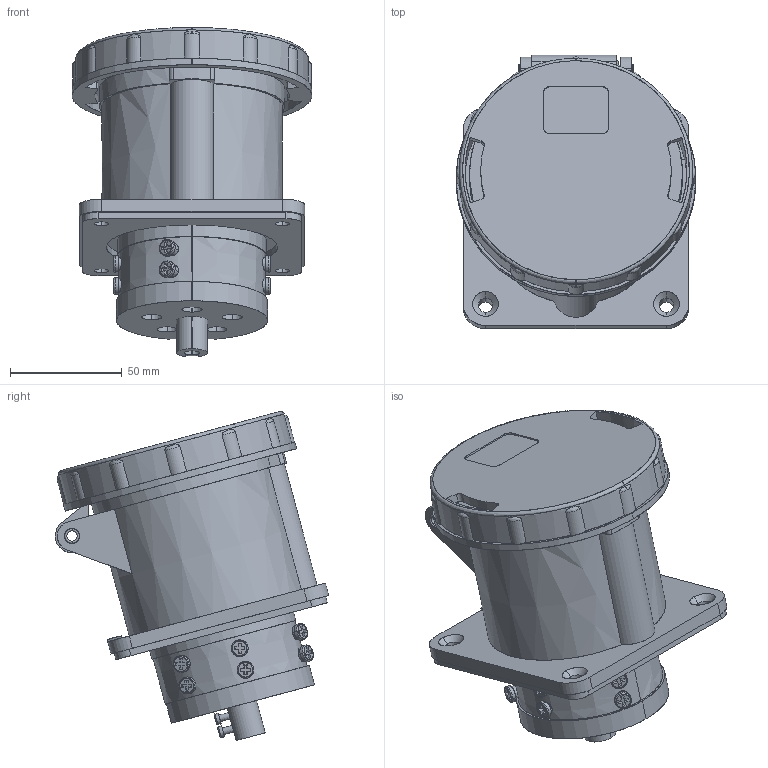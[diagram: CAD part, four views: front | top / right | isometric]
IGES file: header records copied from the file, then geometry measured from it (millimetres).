
Start section: SolidWorks IGES file using analytic representation for surfaces
Global section: file name: D:\X - Arquivos\PROEX\Empresas\P11 - METALTEX\01 - Produtos\IGES\5ª remessa\5ª etapa\TLR63653.IGS; native system: SolidWorks 2012; preprocessor: SolidWorks 2012; author: Usuario; date: 181024.170500; units: millimetre
Bounding box: 107.4 x 122.48 x 147.41 mm (x, y, z)
Surface area: 97643.4 mm2 (no closed solid volume)
Topology: 0 solids, 0 shells, 642 faces, 9270 edges, 9270 vertices
Faces by surface type: bspline 427, revolution 215
